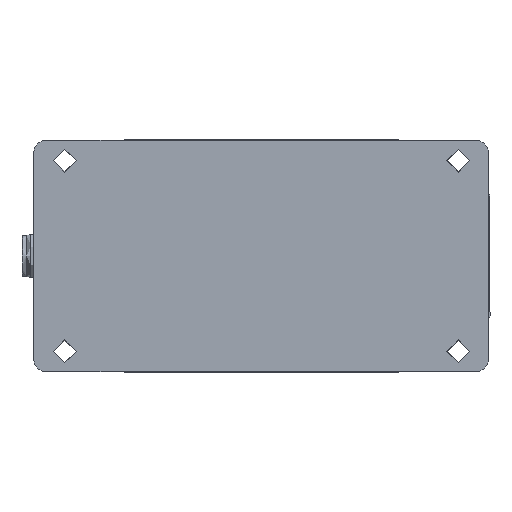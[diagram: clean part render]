
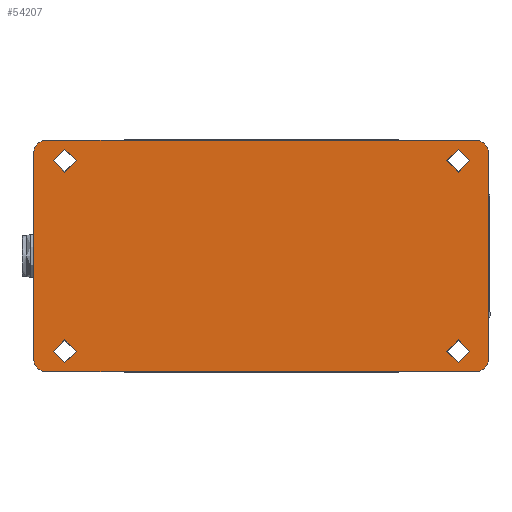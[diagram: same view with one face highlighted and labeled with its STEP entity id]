
A CAD part, front view. The second image highlights one B-rep face of the part: STEP entity #54207.
In plain terms, the highlighted planar face has unit normal (0, -1, 0).
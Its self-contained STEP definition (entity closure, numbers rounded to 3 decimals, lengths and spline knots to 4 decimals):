
#249=ELLIPSE('',#56476,0.1181,0.1181);
#250=ELLIPSE('',#56479,0.1181,0.1181);
#251=ELLIPSE('',#56481,0.1181,0.1181);
#252=ELLIPSE('',#56488,0.1181,0.1181);
#589=CIRCLE('',#56416,0.111);
#590=CIRCLE('',#56418,0.111);
#591=CIRCLE('',#56420,0.111);
#592=CIRCLE('',#56422,0.111);
#1214=FACE_BOUND('',#8387,.T.);
#1215=FACE_BOUND('',#8388,.T.);
#1216=FACE_BOUND('',#8389,.T.);
#1217=FACE_BOUND('',#8390,.T.);
#2782=PLANE('',#56487);
#5306=FACE_OUTER_BOUND('',#8386,.T.);
#8386=EDGE_LOOP('',(#45614,#45615,#45616,#45617,#45618,#45619,#45620,#45621));
#8387=EDGE_LOOP('',(#45622));
#8388=EDGE_LOOP('',(#45623));
#8389=EDGE_LOOP('',(#45624));
#8390=EDGE_LOOP('',(#45625));
#13405=LINE('',#88446,#18605);
#13476=LINE('',#88945,#18676);
#13482=LINE('',#88959,#18682);
#13487=LINE('',#88978,#18687);
#18605=VECTOR('',#65045,0.3937);
#18676=VECTOR('',#65336,0.3937);
#18682=VECTOR('',#65352,0.3937);
#18687=VECTOR('',#65369,0.3937);
#24960=VERTEX_POINT('',#88443);
#24961=VERTEX_POINT('',#88445);
#25040=VERTEX_POINT('',#88765);
#25041=VERTEX_POINT('',#88769);
#25042=VERTEX_POINT('',#88773);
#25043=VERTEX_POINT('',#88777);
#25086=VERTEX_POINT('',#88937);
#25087=VERTEX_POINT('',#88939);
#25088=VERTEX_POINT('',#88943);
#25089=VERTEX_POINT('',#88950);
#25090=VERTEX_POINT('',#88952);
#25091=VERTEX_POINT('',#88956);
#31929=EDGE_CURVE('',#24961,#24960,#13405,.F.);
#32015=EDGE_CURVE('',#25040,#25040,#589,.T.);
#32017=EDGE_CURVE('',#25041,#25041,#590,.T.);
#32019=EDGE_CURVE('',#25042,#25042,#591,.T.);
#32021=EDGE_CURVE('',#25043,#25043,#592,.T.);
#32086=EDGE_CURVE('',#25086,#25087,#249,.T.);
#32089=EDGE_CURVE('',#25086,#25088,#13476,.F.);
#32091=EDGE_CURVE('',#24961,#25088,#250,.T.);
#32093=EDGE_CURVE('',#25089,#25090,#251,.T.);
#32097=EDGE_CURVE('',#25091,#25090,#13482,.F.);
#32106=EDGE_CURVE('',#25091,#24960,#252,.T.);
#32107=EDGE_CURVE('',#25089,#25087,#13487,.F.);
#45614=ORIENTED_EDGE('',*,*,#32106,.F.);
#45615=ORIENTED_EDGE('',*,*,#32097,.T.);
#45616=ORIENTED_EDGE('',*,*,#32093,.F.);
#45617=ORIENTED_EDGE('',*,*,#32107,.T.);
#45618=ORIENTED_EDGE('',*,*,#32086,.F.);
#45619=ORIENTED_EDGE('',*,*,#32089,.T.);
#45620=ORIENTED_EDGE('',*,*,#32091,.F.);
#45621=ORIENTED_EDGE('',*,*,#31929,.T.);
#45622=ORIENTED_EDGE('',*,*,#32021,.T.);
#45623=ORIENTED_EDGE('',*,*,#32019,.T.);
#45624=ORIENTED_EDGE('',*,*,#32017,.T.);
#45625=ORIENTED_EDGE('',*,*,#32015,.T.);
#54207=ADVANCED_FACE('',(#5306,#1214,#1215,#1216,#1217),#2782,.T.);
#56416=AXIS2_PLACEMENT_3D('',#88767,#65179,#65180);
#56418=AXIS2_PLACEMENT_3D('',#88771,#65184,#65185);
#56420=AXIS2_PLACEMENT_3D('',#88775,#65189,#65190);
#56422=AXIS2_PLACEMENT_3D('',#88779,#65194,#65195);
#56476=AXIS2_PLACEMENT_3D('',#88940,#65330,#65331);
#56479=AXIS2_PLACEMENT_3D('',#88948,#65340,#65341);
#56481=AXIS2_PLACEMENT_3D('',#88953,#65345,#65346);
#56487=AXIS2_PLACEMENT_3D('',#88976,#65365,#65366);
#56488=AXIS2_PLACEMENT_3D('',#88977,#65367,#65368);
#65045=DIRECTION('',(0.,0.,-1.));
#65179=DIRECTION('center_axis',(0.,1.,0.));
#65180=DIRECTION('ref_axis',(0.,0.,
1.));
#65184=DIRECTION('center_axis',(0.,1.,0.));
#65185=DIRECTION('ref_axis',(0.,0.,
1.));
#65189=DIRECTION('center_axis',(0.,1.,0.));
#65190=DIRECTION('ref_axis',(0.,0.,
1.));
#65194=DIRECTION('center_axis',(0.,1.,0.));
#65195=DIRECTION('ref_axis',(0.,0.,
1.));
#65330=DIRECTION('center_axis',(0.,1.,0.));
#65331=DIRECTION('ref_axis',(-0.707,0.,-0.707));
#65336=DIRECTION('',(-1.,0.,0.));
#65340=DIRECTION('center_axis',(0.,1.,0.));
#65341=DIRECTION('ref_axis',(0.707,0.,-0.707));
#65345=DIRECTION('center_axis',(0.,1.,0.));
#65346=DIRECTION('ref_axis',(-0.707,0.,0.707));
#65352=DIRECTION('',(1.,0.,0.));
#65365=DIRECTION('center_axis',(0.,-1.,0.));
#65366=DIRECTION('ref_axis',(-1.,0.,0.));
#65367=DIRECTION('center_axis',(0.,1.,0.));
#65368=DIRECTION('ref_axis',(0.707,0.,0.707));
#65369=DIRECTION('',(0.,0.,1.));
#88443=CARTESIAN_POINT('',(2.1922,-0.3543,1.));
#88445=CARTESIAN_POINT('',(2.1922,-0.3543,-1.));
#88446=CARTESIAN_POINT('',(2.1922,-0.3543,0.5491));
#88765=CARTESIAN_POINT('',(1.8995,-0.3543,0.81));
#88767=CARTESIAN_POINT('Origin',(1.8995,-0.3543,0.921));
#88769=CARTESIAN_POINT('',(-1.8995,-0.3543,-1.032));
#88771=CARTESIAN_POINT('Origin',(-1.8995,-0.3543,-0.921));
#88773=CARTESIAN_POINT('',(-1.8995,-0.3543,0.81));
#88775=CARTESIAN_POINT('Origin',(-1.8995,-0.3543,0.921));
#88777=CARTESIAN_POINT('',(1.8995,-0.3543,-1.032));
#88779=CARTESIAN_POINT('Origin',(1.8995,-0.3543,-0.921));
#88937=CARTESIAN_POINT('',(-2.0823,-0.3543,-1.1181));
#88939=CARTESIAN_POINT('',(-2.2004,-0.3543,-1.));
#88940=CARTESIAN_POINT('Origin',(-2.0823,-0.3543,-0.9999));
#88943=CARTESIAN_POINT('',(2.0741,-0.3543,-1.1181));
#88945=CARTESIAN_POINT('',(1.0975,-0.3543,-1.1181));
#88948=CARTESIAN_POINT('Origin',(2.0741,-0.3543,-0.9999));
#88950=CARTESIAN_POINT('',(-2.2004,-0.3543,1.));
#88952=CARTESIAN_POINT('',(-2.0823,-0.3543,1.1181));
#88953=CARTESIAN_POINT('Origin',(-2.0823,-0.3543,0.9999));
#88956=CARTESIAN_POINT('',(2.0741,-0.3543,1.1181));
#88959=CARTESIAN_POINT('',(-1.0975,-0.3543,1.1181));
#88976=CARTESIAN_POINT('Origin',(0.,-0.3543,
0.));
#88977=CARTESIAN_POINT('Origin',(2.0741,-0.3543,0.9999));
#88978=CARTESIAN_POINT('',(-2.2004,-0.3543,-0.5491));
